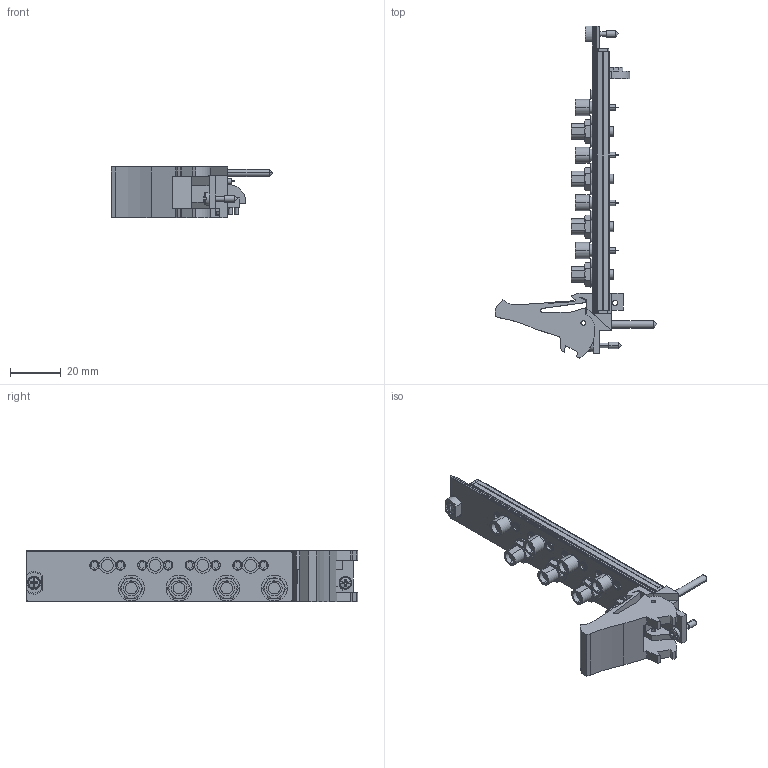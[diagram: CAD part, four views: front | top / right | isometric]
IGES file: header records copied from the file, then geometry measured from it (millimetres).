
Start section:  PTC IGES file: cu_pxie-5611.igs
Global section: file name: cu_pxie-5611.igs; native system: Pro/ENGINEER by Parametric Technology Corporation; preprocessor: 2006080; author: jjorden; organization: Unknown; date: 090922.110628; units: inch
Bounding box: 63.53 x 130.5 x 20.31 mm (x, y, z)
Surface area: 20204.3 mm2 (no closed solid volume)
Topology: 0 solids, 0 shells, 1068 faces, 5684 edges, 5676 vertices
Faces by surface type: bspline 622, revolution 446
